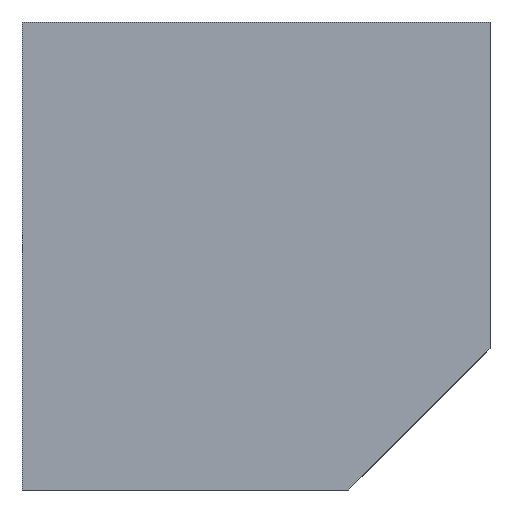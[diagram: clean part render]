
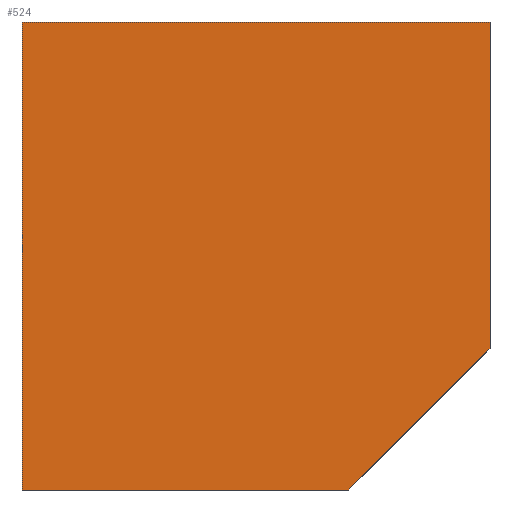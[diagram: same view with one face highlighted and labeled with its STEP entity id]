
A CAD part, left-side view. The second image highlights one B-rep face of the part: STEP entity #524.
In plain terms, the highlighted planar face has unit normal (-1, 0, 0).
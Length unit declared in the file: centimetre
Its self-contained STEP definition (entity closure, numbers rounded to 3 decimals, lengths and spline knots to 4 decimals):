
#2 = VECTOR ( 'NONE', #261, 100. ) ;
#4 = VECTOR ( 'NONE', #149, 100. ) ;
#38 = LINE ( 'NONE', #39, #2 ) ;
#39 = CARTESIAN_POINT ( 'NONE',  ( 0., 1000., 0. ) ) ;
#49 = LINE ( 'NONE', #413, #4 ) ;
#50 = VERTEX_POINT ( 'NONE', #219 ) ;
#53 = ORIENTED_EDGE ( 'NONE', *, *, #587, .T. ) ;
#63 = CARTESIAN_POINT ( 'NONE',  ( 0., 0., 301.3833 ) ) ;
#67 = LINE ( 'NONE', #378, #190 ) ;
#72 = DIRECTION ( 'NONE',  ( 0., 0., -1. ) ) ;
#89 = CARTESIAN_POINT ( 'NONE',  ( 0., 0., 301.3833 ) ) ;
#101 = VERTEX_POINT ( 'NONE', #121 ) ;
#110 = CARTESIAN_POINT ( 'NONE',  ( 0., 301.3833, 0. ) ) ;
#113 = LINE ( 'NONE', #294, #224 ) ;
#121 = CARTESIAN_POINT ( 'NONE',  ( 0., 1000., 1000. ) ) ;
#125 = DIRECTION ( 'NONE',  ( 0., 0., -1. ) ) ;
#149 = DIRECTION ( 'NONE',  ( 0., 0., -1. ) ) ;
#180 = VERTEX_POINT ( 'NONE', #544 ) ;
#186 = DIRECTION ( 'NONE',  ( 0., -0.707, 0.707 ) ) ;
#190 = VECTOR ( 'NONE', #72, 100. ) ;
#219 = CARTESIAN_POINT ( 'NONE',  ( 0., 1000., 0. ) ) ;
#224 = VECTOR ( 'NONE', #480, 100. ) ;
#228 = FACE_OUTER_BOUND ( 'NONE', #300, .T. ) ;
#235 = EDGE_CURVE ( 'NONE', #50, #478, #38, .T. ) ;
#261 = DIRECTION ( 'NONE',  ( 0., -1., 0. ) ) ;
#287 = VECTOR ( 'NONE', #186, 100. ) ;
#294 = CARTESIAN_POINT ( 'NONE',  ( 0., 1000., 1000. ) ) ;
#300 = EDGE_LOOP ( 'NONE', ( #464, #371, #440, #418, #53 ) ) ;
#340 = EDGE_CURVE ( 'NONE', #180, #561, #49, .T. ) ;
#357 = EDGE_CURVE ( 'NONE', #478, #561, #468, .T. ) ;
#371 = ORIENTED_EDGE ( 'NONE', *, *, #357, .T. ) ;
#378 = CARTESIAN_POINT ( 'NONE',  ( 0., 1000., 1000. ) ) ;
#391 = PLANE ( 'NONE',  #437 ) ;
#394 = DIRECTION ( 'NONE',  ( 1., 0., 0. ) ) ;
#413 = CARTESIAN_POINT ( 'NONE',  ( 0., 0., 1000. ) ) ;
#418 = ORIENTED_EDGE ( 'NONE', *, *, #502, .F. ) ;
#437 = AXIS2_PLACEMENT_3D ( 'NONE', #486, #394, #125 ) ;
#440 = ORIENTED_EDGE ( 'NONE', *, *, #340, .F. ) ;
#464 = ORIENTED_EDGE ( 'NONE', *, *, #235, .T. ) ;
#468 = LINE ( 'NONE', #89, #287 ) ;
#478 = VERTEX_POINT ( 'NONE', #110 ) ;
#480 = DIRECTION ( 'NONE',  ( 0., -1., 0. ) ) ;
#486 = CARTESIAN_POINT ( 'NONE',  ( 0., 1000., 1000. ) ) ;
#502 = EDGE_CURVE ( 'NONE', #101, #180, #113, .T. ) ;
#524 = ADVANCED_FACE ( 'NONE', ( #228 ), #391, .F. ) ;
#544 = CARTESIAN_POINT ( 'NONE',  ( 0., 0., 1000. ) ) ;
#561 = VERTEX_POINT ( 'NONE', #63 ) ;
#587 = EDGE_CURVE ( 'NONE', #101, #50, #67, .T. ) ;
